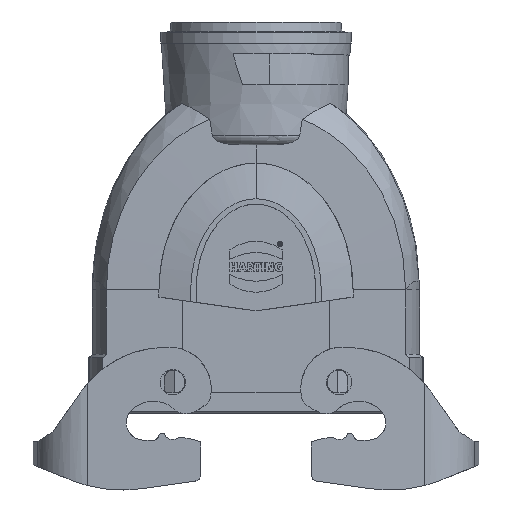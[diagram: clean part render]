
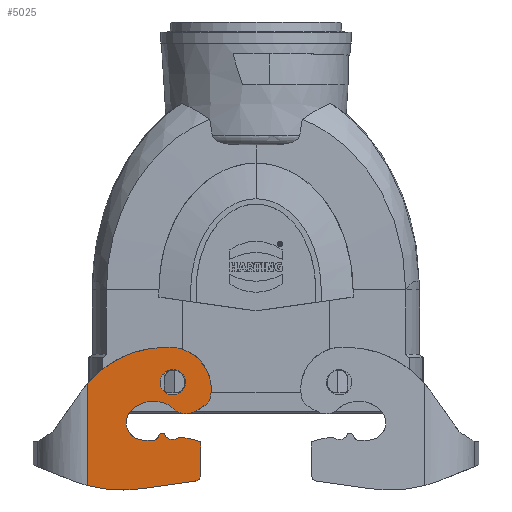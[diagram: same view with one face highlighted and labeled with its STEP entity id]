
A CAD part, front view. The second image highlights one B-rep face of the part: STEP entity #5025.
In plain terms, the highlighted planar face has unit normal (-0.035, -0.999, 0).
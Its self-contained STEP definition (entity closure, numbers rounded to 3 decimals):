
#3837=FACE_BOUND('',#6416,.T.);
#3838=FACE_BOUND('',#6417,.T.);
#4422=PLANE('',#16601);
#5025=ADVANCED_FACE('',(#3837,#3838),#4422,.T.);
#6416=EDGE_LOOP('',(#9823));
#6417=EDGE_LOOP('',(#9824,#9825,#9826,#9827,#9828,#9829,#9830,#9831,#9832,
#9833,#9834,#9835,#9836,#9837,#9838,#9839,#9840,#9841,#9842,#9843));
#6621=ELLIPSE('',#16441,12.007,12.);
#6636=ELLIPSE('',#16458,20.012,20.);
#6637=ELLIPSE('',#16460,3.002,3.);
#6653=ELLIPSE('',#16486,30.018,30.);
#6693=ELLIPSE('',#16547,40.024,40.);
#6700=ELLIPSE('',#16591,3.602,3.6);
#6701=ELLIPSE('',#16592,2.001,2.);
#6702=ELLIPSE('',#16593,15.009,15.);
#6703=ELLIPSE('',#16594,2.502,2.5);
#6704=ELLIPSE('',#16595,1.001,1.);
#6705=ELLIPSE('',#16596,1.501,1.5);
#6706=ELLIPSE('',#16597,5.003,5.);
#6707=ELLIPSE('',#16598,9.005,9.);
#6708=ELLIPSE('',#16599,5.003,5.);
#6709=ELLIPSE('',#16600,5.003,5.);
#9823=ORIENTED_EDGE('',*,*,#12742,.F.);
#9824=ORIENTED_EDGE('',*,*,#12735,.T.);
#9825=ORIENTED_EDGE('',*,*,#12687,.T.);
#9826=ORIENTED_EDGE('',*,*,#12743,.T.);
#9827=ORIENTED_EDGE('',*,*,#12744,.T.);
#9828=ORIENTED_EDGE('',*,*,#12745,.T.);
#9829=ORIENTED_EDGE('',*,*,#12746,.F.);
#9830=ORIENTED_EDGE('',*,*,#12747,.F.);
#9831=ORIENTED_EDGE('',*,*,#12748,.F.);
#9832=ORIENTED_EDGE('',*,*,#12749,.F.);
#9833=ORIENTED_EDGE('',*,*,#12750,.F.);
#9834=ORIENTED_EDGE('',*,*,#12751,.F.);
#9835=ORIENTED_EDGE('',*,*,#12752,.F.);
#9836=ORIENTED_EDGE('',*,*,#12753,.F.);
#9837=ORIENTED_EDGE('',*,*,#12754,.F.);
#9838=ORIENTED_EDGE('',*,*,#12755,.F.);
#9839=ORIENTED_EDGE('',*,*,#12539,.F.);
#9840=ORIENTED_EDGE('',*,*,#12541,.F.);
#9841=ORIENTED_EDGE('',*,*,#12510,.F.);
#9842=ORIENTED_EDGE('',*,*,#12756,.F.);
#9843=ORIENTED_EDGE('',*,*,#12588,.F.);
#10944=VERTEX_POINT('',#25994);
#10950=VERTEX_POINT('',#26006);
#10977=VERTEX_POINT('',#26064);
#10978=VERTEX_POINT('',#26066);
#11014=VERTEX_POINT('',#26158);
#11017=VERTEX_POINT('',#26167);
#11096=VERTEX_POINT('',#26388);
#11097=VERTEX_POINT('',#26392);
#11116=VERTEX_POINT('',#26504);
#11117=VERTEX_POINT('',#26506);
#11118=VERTEX_POINT('',#26508);
#11119=VERTEX_POINT('',#26510);
#11120=VERTEX_POINT('',#26512);
#11121=VERTEX_POINT('',#26514);
#11122=VERTEX_POINT('',#26516);
#11123=VERTEX_POINT('',#26518);
#11124=VERTEX_POINT('',#26520);
#11125=VERTEX_POINT('',#26522);
#11126=VERTEX_POINT('',#26524);
#11127=VERTEX_POINT('',#26526);
#11128=VERTEX_POINT('',#26528);
#12510=EDGE_CURVE('',#10950,#10944,#6621,.T.);
#12539=EDGE_CURVE('',#10977,#10978,#6636,.T.);
#12541=EDGE_CURVE('',#10944,#10977,#6637,.T.);
#12588=EDGE_CURVE('',#11017,#11014,#6653,.T.);
#12687=EDGE_CURVE('',#11096,#11097,#6693,.T.);
#12735=EDGE_CURVE('',#11017,#11096,#13765,.T.);
#12742=EDGE_CURVE('',#11116,#11116,#6700,.T.);
#12743=EDGE_CURVE('',#11097,#11117,#13768,.T.);
#12744=EDGE_CURVE('',#11117,#11118,#6701,.T.);
#12745=EDGE_CURVE('',#11118,#11119,#13769,.T.);
#12746=EDGE_CURVE('',#11120,#11119,#6702,.T.);
#12747=EDGE_CURVE('',#11121,#11120,#13770,.T.);
#12748=EDGE_CURVE('',#11122,#11121,#6703,.T.);
#12749=EDGE_CURVE('',#11123,#11122,#6704,.T.);
#12750=EDGE_CURVE('',#11124,#11123,#6705,.T.);
#12751=EDGE_CURVE('',#11125,#11124,#13771,.T.);
#12752=EDGE_CURVE('',#11126,#11125,#6706,.T.);
#12753=EDGE_CURVE('',#11127,#11126,#6707,.T.);
#12754=EDGE_CURVE('',#11128,#11127,#6708,.T.);
#12755=EDGE_CURVE('',#10978,#11128,#6709,.T.);
#12756=EDGE_CURVE('',#11014,#10950,#13772,.T.);
#13765=LINE('',#26491,#14786);
#13768=LINE('',#26505,#14789);
#13769=LINE('',#26509,#14790);
#13770=LINE('',#26513,#14791);
#13771=LINE('',#26521,#14792);
#13772=LINE('',#26530,#14793);
#14786=VECTOR('',#19465,1.);
#14789=VECTOR('',#19484,1.);
#14790=VECTOR('',#19487,1.);
#14791=VECTOR('',#19490,1.);
#14792=VECTOR('',#19497,1.);
#14793=VECTOR('',#19506,1.);
#16441=AXIS2_PLACEMENT_3D('',#26007,#19044,#19045);
#16458=AXIS2_PLACEMENT_3D('',#26065,#19092,#19093);
#16460=AXIS2_PLACEMENT_3D('',#26069,#19097,#19098);
#16486=AXIS2_PLACEMENT_3D('',#26168,#19179,#19180);
#16547=AXIS2_PLACEMENT_3D('',#26393,#19350,#19351);
#16591=AXIS2_PLACEMENT_3D('',#26503,#19482,#19483);
#16592=AXIS2_PLACEMENT_3D('',#26507,#19485,#19486);
#16593=AXIS2_PLACEMENT_3D('',#26511,#19488,#19489);
#16594=AXIS2_PLACEMENT_3D('',#26515,#19491,#19492);
#16595=AXIS2_PLACEMENT_3D('',#26517,#19493,#19494);
#16596=AXIS2_PLACEMENT_3D('',#26519,#19495,#19496);
#16597=AXIS2_PLACEMENT_3D('',#26523,#19498,#19499);
#16598=AXIS2_PLACEMENT_3D('',#26525,#19500,#19501);
#16599=AXIS2_PLACEMENT_3D('',#26527,#19502,#19503);
#16600=AXIS2_PLACEMENT_3D('',#26529,#19504,#19505);
#16601=AXIS2_PLACEMENT_3D('',#26531,#19507,#19508);
#19044=DIRECTION('',(0.035,0.999,0.));
#19045=DIRECTION('',(-0.999,0.035,0.));
#19092=DIRECTION('',(0.035,0.999,0.));
#19093=DIRECTION('',(-0.999,0.035,0.));
#19097=DIRECTION('',(0.035,0.999,0.));
#19098=DIRECTION('',(-0.999,0.035,0.));
#19179=DIRECTION('',(0.035,0.999,0.));
#19180=DIRECTION('',(-0.999,0.035,0.));
#19350=DIRECTION('',(-0.035,-0.999,0.));
#19351=DIRECTION('',(0.999,-0.035,0.));
#19465=DIRECTION('',(0.,0.,-1.));
#19482=DIRECTION('',(-0.035,-0.999,0.));
#19483=DIRECTION('',(-0.999,0.035,0.));
#19484=DIRECTION('',(0.99,-0.035,0.139));
#19485=DIRECTION('',(-0.035,-0.999,0.));
#19486=DIRECTION('',(-0.999,0.035,0.));
#19487=DIRECTION('',(0.,0.,1.));
#19488=DIRECTION('',(0.035,0.999,0.));
#19489=DIRECTION('',(-0.999,0.035,0.));
#19490=DIRECTION('',(0.996,-0.035,-0.087));
#19491=DIRECTION('',(-0.035,-0.999,0.));
#19492=DIRECTION('',(-0.999,0.035,0.));
#19493=DIRECTION('',(0.035,0.999,0.));
#19494=DIRECTION('',(-0.999,0.035,0.));
#19495=DIRECTION('',(-0.035,-0.999,0.));
#19496=DIRECTION('',(-0.999,0.035,0.));
#19497=DIRECTION('',(0.999,-0.035,0.));
#19498=DIRECTION('',(-0.035,-0.999,0.));
#19499=DIRECTION('',(-0.999,0.035,0.));
#19500=DIRECTION('',(-0.035,-0.999,0.));
#19501=DIRECTION('',(-0.999,0.035,0.));
#19502=DIRECTION('',(-0.035,-0.999,0.));
#19503=DIRECTION('',(-0.999,0.035,0.));
#19504=DIRECTION('',(0.035,0.999,0.));
#19505=DIRECTION('',(-0.999,0.035,0.));
#19506=DIRECTION('',(0.999,-0.035,0.035));
#19507=DIRECTION('',(-0.035,-0.999,0.));
#19508=DIRECTION('',(0.999,-0.035,0.));
#25994=CARTESIAN_POINT('',(-13.064,-28.273,-7.203));
#26006=CARTESIAN_POINT('',(-25.196,-27.849,7.396));
#26007=CARTESIAN_POINT('',(-24.777,-27.864,-4.597));
#26064=CARTESIAN_POINT('',(-14.19,-28.234,-8.95));
#26065=CARTESIAN_POINT('',(-26.206,-27.814,7.038));
#26066=CARTESIAN_POINT('',(-18.025,-28.1,-11.213));
#26069=CARTESIAN_POINT('',(-15.992,-28.171,-6.552));
#26158=CARTESIAN_POINT('',(-26.508,-27.804,7.35));
#26167=CARTESIAN_POINT('',(-48.076,-27.051,-2.919));
#26168=CARTESIAN_POINT('',(-25.461,-27.84,-22.632));
#26388=CARTESIAN_POINT('',(-48.076,-27.051,-32.115));
#26392=CARTESIAN_POINT('',(-32.485,-27.595,-33.002));
#26393=CARTESIAN_POINT('',(-38.052,-27.401,6.609));
#26491=CARTESIAN_POINT('',(-48.076,-27.051,-47.65));
#26503=CARTESIAN_POINT('',(-23.75,-27.9,-2.65));
#26504=CARTESIAN_POINT('',(-27.35,-27.774,-2.65));
#26505=CARTESIAN_POINT('',(-11.226,-28.337,-30.014));
#26506=CARTESIAN_POINT('',(-17.472,-28.119,-30.892));
#26507=CARTESIAN_POINT('',(-17.75,-28.11,-28.911));
#26508=CARTESIAN_POINT('',(-15.75,-28.179,-28.911));
#26509=CARTESIAN_POINT('',(-15.75,-28.179,-47.65));
#26510=CARTESIAN_POINT('',(-15.75,-28.179,-19.675));
#26511=CARTESIAN_POINT('',(-21.604,-27.975,-33.486));
#26512=CARTESIAN_POINT('',(-20.296,-28.021,-18.543));
#26513=CARTESIAN_POINT('',(-20.262,-28.022,-18.546));
#26514=CARTESIAN_POINT('',(-22.107,-27.957,-18.384));
#26515=CARTESIAN_POINT('',(-23.75,-27.9,-16.5));
#26516=CARTESIAN_POINT('',(-25.945,-27.823,-17.696));
#26517=CARTESIAN_POINT('',(-26.823,-27.793,-18.175));
#26518=CARTESIAN_POINT('',(-27.803,-27.758,-17.975));
#26519=CARTESIAN_POINT('',(-29.273,-27.707,-17.675));
#26520=CARTESIAN_POINT('',(-29.273,-27.707,-19.175));
#26521=CARTESIAN_POINT('',(-29.228,-27.709,-19.175));
#26522=CARTESIAN_POINT('',(-32.05,-27.61,-19.175));
#26523=CARTESIAN_POINT('',(-32.05,-27.61,-14.175));
#26524=CARTESIAN_POINT('',(-35.518,-27.489,-10.573));
#26525=CARTESIAN_POINT('',(-29.275,-27.707,-17.056));
#26526=CARTESIAN_POINT('',(-24.739,-27.865,-9.283));
#26527=CARTESIAN_POINT('',(-27.259,-27.777,-13.602));
#26528=CARTESIAN_POINT('',(-23.665,-27.903,-10.126));
#26529=CARTESIAN_POINT('',(-20.071,-28.028,-6.65));
#26530=CARTESIAN_POINT('',(-25.156,-27.851,7.397));
#26531=CARTESIAN_POINT('',(-8.75,-28.424,-47.65));
